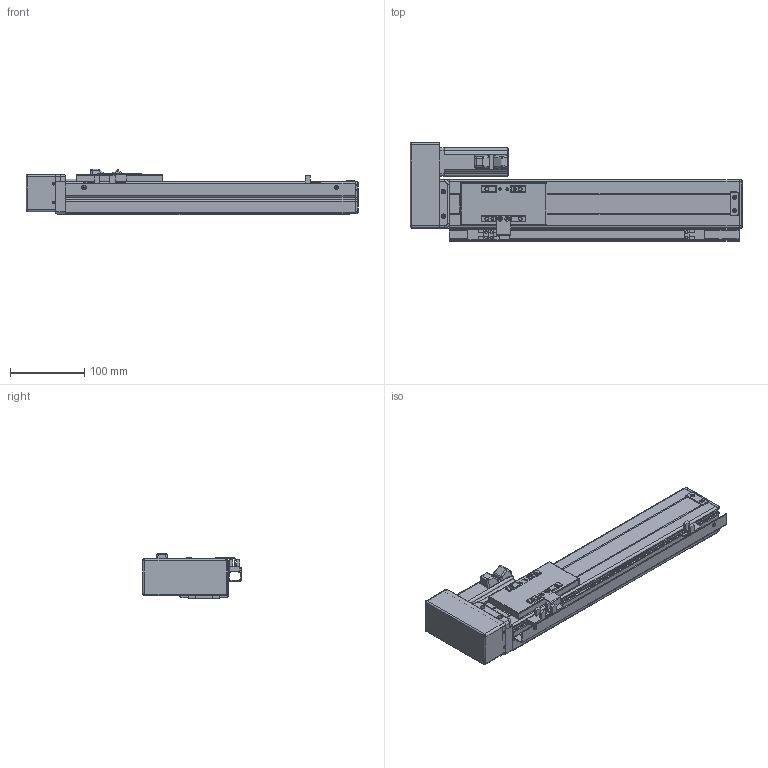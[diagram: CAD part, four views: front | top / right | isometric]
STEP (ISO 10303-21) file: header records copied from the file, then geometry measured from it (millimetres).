
FILE_DESCRIPTION (( 'STEP AP203' ), '1' );
FILE_NAME ('VT6-L10-C-S240-BR-P10-D4.STEP', '2015-10-26T06:15:44', ( '' ), ( '' ), 'SwSTEP 2.0', 'SolidWorks 2013', '' );
FILE_SCHEMA (( 'CONFIG_CONTROL_DESIGN' ));
Length unit declared in the file: millimetre
Products named in the file (17): T6-揤輸; T6-裔啣; T6-BMRL肮祭湍謫欶; T6-賑雄殤; ET6-BC耜啣_240; ET6-BLRM滅鳥湍_240; T6-BMLRヶ傷裔; VT6-L10-C-S240-BR-P10-D4; EE-XS674; T6-覜茼え; T6-BMRLヶ傷裔揤啣; ET6-BLRM佪裝_240; T6-BRL萇儂假蚾啣; T6-綴傷裔; ET6-BLRM絳寢_俴最240; 侂狟100W MSMD012G1U; ET6-BC癹弇羲壽羞_240
Assembly tree (19 placements, depth 2):
  VT6-L10-C-S240-BR-P10-D4
    ET6-BC耜啣_240  x2
    T6-賑雄殤
    T6-裔啣
    T6-揤輸
    T6-綴傷裔
    ET6-BLRM絳寢_俴最240
    ET6-BLRM滅鳥湍_240
    ET6-BLRM佪裝_240
    T6-BMLRヶ傷裔
    T6-BMRLヶ傷裔揤啣
    T6-BMRL肮祭湍謫欶
    侂狟100W MSMD012G1U
    T6-BRL萇儂假蚾啣
    T6-覜茼え
    ET6-BC癹弇羲壽羞_240
    EE-XS674  x3
Bounding box: 447 x 133 x 61 mm (x, y, z)
Volume: 642122.4 mm3; surface area: 380683.5 mm2
Topology: 19 solids, 19 shells, 881 faces, 2328 edges, 1472 vertices
Faces by surface type: cylinder 407, plane 374, cone 46, torus 36, sphere 18
Entity records: 27101 total; most frequent: CARTESIAN_POINT 4561, DIRECTION 4518, ORIENTED_EDGE 4174, EDGE_CURVE 2087, AXIS2_PLACEMENT_3D 1649, VERTEX_POINT 1332, VECTOR 1220, LINE 1220
